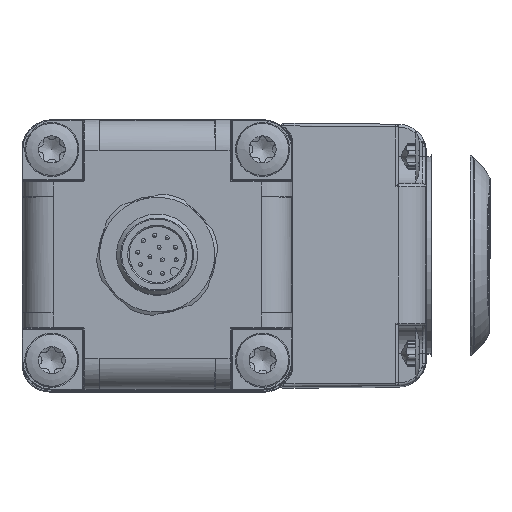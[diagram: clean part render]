
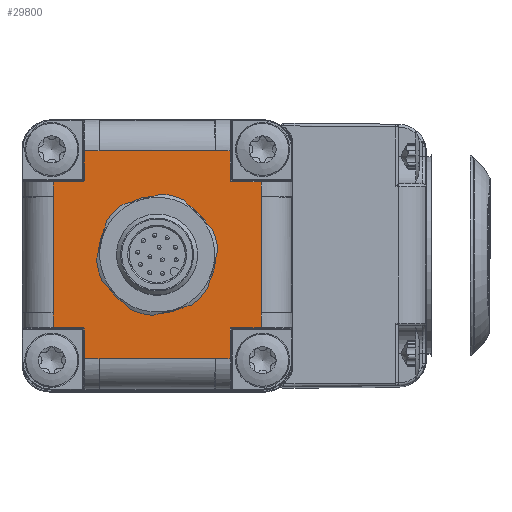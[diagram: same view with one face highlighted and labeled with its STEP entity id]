
A CAD part, top view. The second image highlights one B-rep face of the part: STEP entity #29800.
In plain terms, the highlighted planar face has unit normal (0, 0, 1).
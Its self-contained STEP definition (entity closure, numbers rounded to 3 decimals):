
#608=ELLIPSE('',#31921,0.2,0.2);
#609=ELLIPSE('',#31922,0.2,0.2);
#610=ELLIPSE('',#31923,0.2,0.2);
#611=ELLIPSE('',#31924,0.2,0.2);
#864=FACE_BOUND('',#7433,.T.);
#1007=PLANE('',#31920);
#1559=LINE('',#45957,#3222);
#1560=LINE('',#45961,#3223);
#1561=LINE('',#45963,#3224);
#1562=LINE('',#45965,#3225);
#1563=LINE('',#45967,#3226);
#1564=LINE('',#45969,#3227);
#1565=LINE('',#45973,#3228);
#1566=LINE('',#45975,#3229);
#1567=LINE('',#45977,#3230);
#1568=LINE('',#45979,#3231);
#1569=LINE('',#45981,#3232);
#1570=LINE('',#45985,#3233);
#1571=LINE('',#45987,#3234);
#1572=LINE('',#45989,#3235);
#1573=LINE('',#45991,#3236);
#1574=LINE('',#45993,#3237);
#1575=LINE('',#45997,#3238);
#1576=LINE('',#45999,#3239);
#1577=LINE('',#46001,#3240);
#1578=LINE('',#46002,#3241);
#3222=VECTOR('',#35887,10.);
#3223=VECTOR('',#35890,10.);
#3224=VECTOR('',#35891,10.);
#3225=VECTOR('',#35892,10.);
#3226=VECTOR('',#35893,10.);
#3227=VECTOR('',#35894,10.);
#3228=VECTOR('',#35897,10.);
#3229=VECTOR('',#35898,10.);
#3230=VECTOR('',#35899,10.);
#3231=VECTOR('',#35900,10.);
#3232=VECTOR('',#35901,10.);
#3233=VECTOR('',#35904,10.);
#3234=VECTOR('',#35905,10.);
#3235=VECTOR('',#35906,10.);
#3236=VECTOR('',#35907,10.);
#3237=VECTOR('',#35908,10.);
#3238=VECTOR('',#35911,10.);
#3239=VECTOR('',#35912,10.);
#3240=VECTOR('',#35913,10.);
#3241=VECTOR('',#35914,10.);
#5495=FACE_OUTER_BOUND('',#7432,.T.);
#7432=EDGE_LOOP('',(#20500,#20501,#20502,#20503,#20504,#20505,#20506,#20507,
#20508,#20509,#20510,#20511,#20512,#20513,#20514,#20515,#20516,#20517,#20518,
#20519,#20520,#20521,#20522,#20523));
#7433=EDGE_LOOP('',(#20524));
#9455=CIRCLE('',#31872,8.7);
#12352=VERTEX_POINT('',#45655);
#12449=VERTEX_POINT('',#45955);
#12450=VERTEX_POINT('',#45956);
#12451=VERTEX_POINT('',#45958);
#12452=VERTEX_POINT('',#45960);
#12453=VERTEX_POINT('',#45962);
#12454=VERTEX_POINT('',#45964);
#12455=VERTEX_POINT('',#45966);
#12456=VERTEX_POINT('',#45968);
#12457=VERTEX_POINT('',#45970);
#12458=VERTEX_POINT('',#45972);
#12459=VERTEX_POINT('',#45974);
#12460=VERTEX_POINT('',#45976);
#12461=VERTEX_POINT('',#45978);
#12462=VERTEX_POINT('',#45980);
#12463=VERTEX_POINT('',#45982);
#12464=VERTEX_POINT('',#45984);
#12465=VERTEX_POINT('',#45986);
#12466=VERTEX_POINT('',#45988);
#12467=VERTEX_POINT('',#45990);
#12468=VERTEX_POINT('',#45992);
#12469=VERTEX_POINT('',#45994);
#12470=VERTEX_POINT('',#45996);
#12471=VERTEX_POINT('',#45998);
#12472=VERTEX_POINT('',#46000);
#15382=EDGE_CURVE('',#12352,#12352,#9455,.T.);
#15486=EDGE_CURVE('',#12449,#12450,#1559,.T.);
#15487=EDGE_CURVE('',#12451,#12449,#608,.T.);
#15488=EDGE_CURVE('',#12452,#12451,#1560,.T.);
#15489=EDGE_CURVE('',#12453,#12452,#1561,.T.);
#15490=EDGE_CURVE('',#12454,#12453,#1562,.T.);
#15491=EDGE_CURVE('',#12455,#12454,#1563,.T.);
#15492=EDGE_CURVE('',#12456,#12455,#1564,.T.);
#15493=EDGE_CURVE('',#12457,#12456,#609,.T.);
#15494=EDGE_CURVE('',#12458,#12457,#1565,.T.);
#15495=EDGE_CURVE('',#12459,#12458,#1566,.T.);
#15496=EDGE_CURVE('',#12460,#12459,#1567,.T.);
#15497=EDGE_CURVE('',#12461,#12460,#1568,.T.);
#15498=EDGE_CURVE('',#12462,#12461,#1569,.T.);
#15499=EDGE_CURVE('',#12463,#12462,#610,.T.);
#15500=EDGE_CURVE('',#12464,#12463,#1570,.T.);
#15501=EDGE_CURVE('',#12465,#12464,#1571,.T.);
#15502=EDGE_CURVE('',#12466,#12465,#1572,.T.);
#15503=EDGE_CURVE('',#12467,#12466,#1573,.T.);
#15504=EDGE_CURVE('',#12468,#12467,#1574,.T.);
#15505=EDGE_CURVE('',#12469,#12468,#611,.T.);
#15506=EDGE_CURVE('',#12470,#12469,#1575,.T.);
#15507=EDGE_CURVE('',#12471,#12470,#1576,.T.);
#15508=EDGE_CURVE('',#12472,#12471,#1577,.T.);
#15509=EDGE_CURVE('',#12450,#12472,#1578,.T.);
#20500=ORIENTED_EDGE('',*,*,#15486,.F.);
#20501=ORIENTED_EDGE('',*,*,#15487,.F.);
#20502=ORIENTED_EDGE('',*,*,#15488,.F.);
#20503=ORIENTED_EDGE('',*,*,#15489,.F.);
#20504=ORIENTED_EDGE('',*,*,#15490,.F.);
#20505=ORIENTED_EDGE('',*,*,#15491,.F.);
#20506=ORIENTED_EDGE('',*,*,#15492,.F.);
#20507=ORIENTED_EDGE('',*,*,#15493,.F.);
#20508=ORIENTED_EDGE('',*,*,#15494,.F.);
#20509=ORIENTED_EDGE('',*,*,#15495,.F.);
#20510=ORIENTED_EDGE('',*,*,#15496,.F.);
#20511=ORIENTED_EDGE('',*,*,#15497,.F.);
#20512=ORIENTED_EDGE('',*,*,#15498,.F.);
#20513=ORIENTED_EDGE('',*,*,#15499,.F.);
#20514=ORIENTED_EDGE('',*,*,#15500,.F.);
#20515=ORIENTED_EDGE('',*,*,#15501,.F.);
#20516=ORIENTED_EDGE('',*,*,#15502,.F.);
#20517=ORIENTED_EDGE('',*,*,#15503,.F.);
#20518=ORIENTED_EDGE('',*,*,#15504,.F.);
#20519=ORIENTED_EDGE('',*,*,#15505,.F.);
#20520=ORIENTED_EDGE('',*,*,#15506,.F.);
#20521=ORIENTED_EDGE('',*,*,#15507,.F.);
#20522=ORIENTED_EDGE('',*,*,#15508,.F.);
#20523=ORIENTED_EDGE('',*,*,#15509,.F.);
#20524=ORIENTED_EDGE('',*,*,#15382,.T.);
#29800=ADVANCED_FACE('',(#5495,#864),#1007,.T.);
#31872=AXIS2_PLACEMENT_3D('',#45657,#35733,#35734);
#31920=AXIS2_PLACEMENT_3D('',#45954,#35885,#35886);
#31921=AXIS2_PLACEMENT_3D('',#45959,#35888,#35889);
#31922=AXIS2_PLACEMENT_3D('',#45971,#35895,#35896);
#31923=AXIS2_PLACEMENT_3D('',#45983,#35902,#35903);
#31924=AXIS2_PLACEMENT_3D('',#45995,#35909,#35910);
#35733=DIRECTION('center_axis',(0.,0.,
-1.));
#35734=DIRECTION('ref_axis',(1.,0.,0.));
#35885=DIRECTION('center_axis',(0.,0.,
1.));
#35886=DIRECTION('ref_axis',(1.,0.,0.));
#35887=DIRECTION('',(0.,-1.,0.));
#35888=DIRECTION('center_axis',(0.,0.,
1.));
#35889=DIRECTION('ref_axis',(-0.707,0.707,0.));
#35890=DIRECTION('',(-1.,0.,0.));
#35891=DIRECTION('',(0.,-1.,0.));
#35892=DIRECTION('',(0.,-1.,0.));
#35893=DIRECTION('',(0.,-1.,0.));
#35894=DIRECTION('',(1.,0.,0.));
#35895=DIRECTION('center_axis',(0.,0.,
1.));
#35896=DIRECTION('ref_axis',(-0.707,-0.707,0.));
#35897=DIRECTION('',(0.,-1.,0.));
#35898=DIRECTION('',(1.,0.,0.));
#35899=DIRECTION('',(1.,0.,0.));
#35900=DIRECTION('',(1.,0.,0.));
#35901=DIRECTION('',(0.,1.,0.));
#35902=DIRECTION('center_axis',(0.,0.,
1.));
#35903=DIRECTION('ref_axis',(0.707,-0.707,0.));
#35904=DIRECTION('',(1.,0.,0.));
#35905=DIRECTION('',(0.,1.,0.));
#35906=DIRECTION('',(0.,1.,0.));
#35907=DIRECTION('',(0.,1.,0.));
#35908=DIRECTION('',(-1.,0.,0.));
#35909=DIRECTION('center_axis',(0.,0.,
1.));
#35910=DIRECTION('ref_axis',(0.707,0.707,0.));
#35911=DIRECTION('',(0.,1.,0.));
#35912=DIRECTION('',(-1.,0.,0.));
#35913=DIRECTION('',(-1.,0.,0.));
#35914=DIRECTION('',(-1.,0.,0.));
#45655=CARTESIAN_POINT('',(6.152,-6.152,169.45));
#45657=CARTESIAN_POINT('Origin',(0.,0.,
169.45));
#45954=CARTESIAN_POINT('Origin',(0.,0.,
169.45));
#45955=CARTESIAN_POINT('',(10.787,-10.987,169.45));
#45956=CARTESIAN_POINT('',(10.787,-15.393,169.45));
#45957=CARTESIAN_POINT('',(10.787,5.5,169.45));
#45958=CARTESIAN_POINT('',(10.987,-10.787,169.45));
#45959=CARTESIAN_POINT('Origin',(10.987,-10.987,169.45));
#45960=CARTESIAN_POINT('',(15.393,-10.787,169.45));
#45961=CARTESIAN_POINT('',(-10.,-10.787,169.45));
#45962=CARTESIAN_POINT('',(15.393,-8.6,169.45));
#45963=CARTESIAN_POINT('',(15.393,-10.,169.45));
#45964=CARTESIAN_POINT('',(15.393,8.6,169.45));
#45965=CARTESIAN_POINT('',(15.393,-10.,169.45));
#45966=CARTESIAN_POINT('',(15.393,10.787,169.45));
#45967=CARTESIAN_POINT('',(15.393,-10.,169.45));
#45968=CARTESIAN_POINT('',(10.987,10.787,169.45));
#45969=CARTESIAN_POINT('',(-5.5,10.787,169.45));
#45970=CARTESIAN_POINT('',(10.787,10.987,169.45));
#45971=CARTESIAN_POINT('Origin',(10.987,10.987,169.45));
#45972=CARTESIAN_POINT('',(10.787,15.393,169.45));
#45973=CARTESIAN_POINT('',(10.787,5.5,169.45));
#45974=CARTESIAN_POINT('',(8.6,15.393,169.45));
#45975=CARTESIAN_POINT('',(10.,15.393,169.45));
#45976=CARTESIAN_POINT('',(-8.6,15.393,169.45));
#45977=CARTESIAN_POINT('',(10.,15.393,169.45));
#45978=CARTESIAN_POINT('',(-10.787,15.393,169.45));
#45979=CARTESIAN_POINT('',(10.,15.393,169.45));
#45980=CARTESIAN_POINT('',(-10.787,10.987,169.45));
#45981=CARTESIAN_POINT('',(-10.787,10.,169.45));
#45982=CARTESIAN_POINT('',(-10.987,10.787,169.45));
#45983=CARTESIAN_POINT('Origin',(-10.987,10.987,169.45));
#45984=CARTESIAN_POINT('',(-15.393,10.787,169.45));
#45985=CARTESIAN_POINT('',(-5.5,10.787,169.45));
#45986=CARTESIAN_POINT('',(-15.393,8.6,169.45));
#45987=CARTESIAN_POINT('',(-15.393,10.,169.45));
#45988=CARTESIAN_POINT('',(-15.393,-8.6,169.45));
#45989=CARTESIAN_POINT('',(-15.393,10.,169.45));
#45990=CARTESIAN_POINT('',(-15.393,-10.787,169.45));
#45991=CARTESIAN_POINT('',(-15.393,10.,169.45));
#45992=CARTESIAN_POINT('',(-10.987,-10.787,169.45));
#45993=CARTESIAN_POINT('',(-10.,-10.787,169.45));
#45994=CARTESIAN_POINT('',(-10.787,-10.987,169.45));
#45995=CARTESIAN_POINT('Origin',(-10.987,-10.987,169.45));
#45996=CARTESIAN_POINT('',(-10.787,-15.393,169.45));
#45997=CARTESIAN_POINT('',(-10.787,10.,169.45));
#45998=CARTESIAN_POINT('',(-8.6,-15.393,169.45));
#45999=CARTESIAN_POINT('',(-10.,-15.393,169.45));
#46000=CARTESIAN_POINT('',(8.6,-15.393,169.45));
#46001=CARTESIAN_POINT('',(-10.,-15.393,169.45));
#46002=CARTESIAN_POINT('',(-10.,-15.393,169.45));
